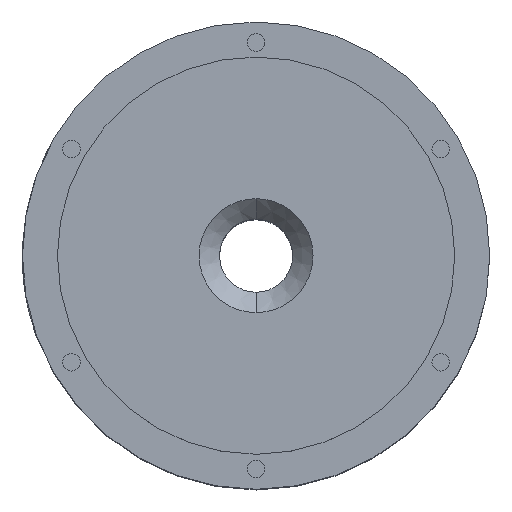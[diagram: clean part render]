
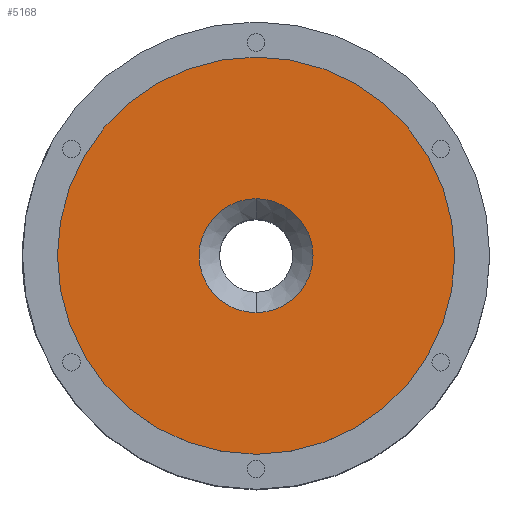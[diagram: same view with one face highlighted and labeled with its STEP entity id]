
A CAD part, top view. The second image highlights one B-rep face of the part: STEP entity #5168.
In plain terms, the highlighted planar face has unit normal (0, 0, 1).
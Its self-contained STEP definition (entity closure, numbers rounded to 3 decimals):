
#373 = VERTEX_POINT ( 'NONE', #1574 ) ;
#374 = VERTEX_POINT ( 'NONE', #1510 ) ;
#444 = EDGE_CURVE ( 'NONE', #374, #373, #1762, .T. ) ;
#1510 = CARTESIAN_POINT ( 'NONE',  ( 0., 68., 143. ) ) ;
#1574 = CARTESIAN_POINT ( 'NONE',  ( 0., -68., 143. ) ) ;
#1741 = DIRECTION ( 'NONE',  ( 0., 1., 0. ) ) ;
#1743 = DIRECTION ( 'NONE',  ( 0., 0., -1. ) ) ;
#1744 = CARTESIAN_POINT ( 'NONE',  ( 0., 0., 143. ) ) ;
#1748 = AXIS2_PLACEMENT_3D ( 'NONE', #1744, #1743, #1741 ) ;
#1762 = CIRCLE ( 'NONE', #1748, 68. ) ;
#3048 = DIRECTION ( 'NONE',  ( 0., 1., 0. ) ) ;
#3049 = DIRECTION ( 'NONE',  ( 0., 0., -1. ) ) ;
#3050 = CARTESIAN_POINT ( 'NONE',  ( 0., 0., 143. ) ) ;
#3051 = AXIS2_PLACEMENT_3D ( 'NONE', #3050, #3049, #3048 ) ;
#3053 = DIRECTION ( 'NONE',  ( 0., -1., 0. ) ) ;
#3055 = CIRCLE ( 'NONE', #3051, 68. ) ;
#3056 = DIRECTION ( 'NONE',  ( 0., -1., 0. ) ) ;
#3057 = DIRECTION ( 'NONE',  ( 0., 0., -1. ) ) ;
#3058 = CARTESIAN_POINT ( 'NONE',  ( 0., 0., 143. ) ) ;
#3059 = AXIS2_PLACEMENT_3D ( 'NONE', #3058, #3057, #3056 ) ;
#3060 = DIRECTION ( 'NONE',  ( 0., 0., 1. ) ) ;
#3061 = CARTESIAN_POINT ( 'NONE',  ( 0., -12.5, 143. ) ) ;
#3062 = AXIS2_PLACEMENT_3D ( 'NONE', #3061, #3060, #3053 ) ;
#3063 = FACE_BOUND ( 'NONE', #5162, .T. ) ;
#3066 = PLANE ( 'NONE',  #3062 ) ;
#3067 = CIRCLE ( 'NONE', #3059, 19.5 ) ;
#3068 = FACE_OUTER_BOUND ( 'NONE', #5166, .T. ) ;
#3219 = CIRCLE ( 'NONE', #3239, 19.5 ) ;
#3238 = CARTESIAN_POINT ( 'NONE',  ( 0., -19.5, 143. ) ) ;
#3239 = AXIS2_PLACEMENT_3D ( 'NONE', #3271, #3270, #3269 ) ;
#3265 = CARTESIAN_POINT ( 'NONE',  ( 0., 19.5, 143. ) ) ;
#3269 = DIRECTION ( 'NONE',  ( 0., -1., 0. ) ) ;
#3270 = DIRECTION ( 'NONE',  ( 0., 0., -1. ) ) ;
#3271 = CARTESIAN_POINT ( 'NONE',  ( 0., 0., 143. ) ) ;
#5145 = ORIENTED_EDGE ( 'NONE', *, *, #5270, .T. ) ;
#5162 = EDGE_LOOP ( 'NONE', ( #5145, #5165 ) ) ;
#5165 = ORIENTED_EDGE ( 'NONE', *, *, #5167, .T. ) ;
#5166 = EDGE_LOOP ( 'NONE', ( #5176, #5183 ) ) ;
#5167 = EDGE_CURVE ( 'NONE', #5274, #5269, #3067, .T. ) ;
#5168 = ADVANCED_FACE ( 'NONE', ( #3063, #3068 ), #3066, .T. ) ;
#5173 = EDGE_CURVE ( 'NONE', #373, #374, #3055, .T. ) ;
#5176 = ORIENTED_EDGE ( 'NONE', *, *, #444, .F. ) ;
#5183 = ORIENTED_EDGE ( 'NONE', *, *, #5173, .F. ) ;
#5269 = VERTEX_POINT ( 'NONE', #3238 ) ;
#5270 = EDGE_CURVE ( 'NONE', #5269, #5274, #3219, .T. ) ;
#5274 = VERTEX_POINT ( 'NONE', #3265 ) ;
